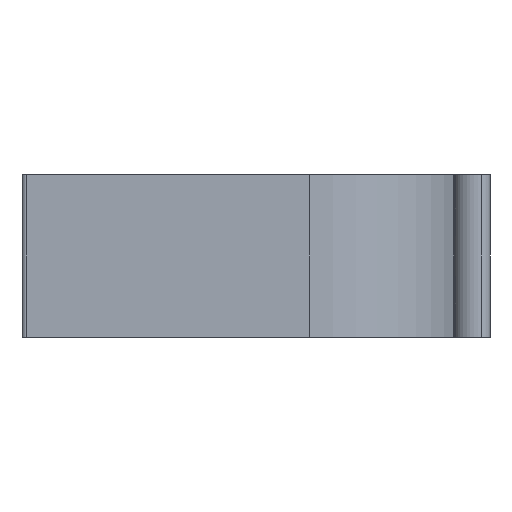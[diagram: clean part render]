
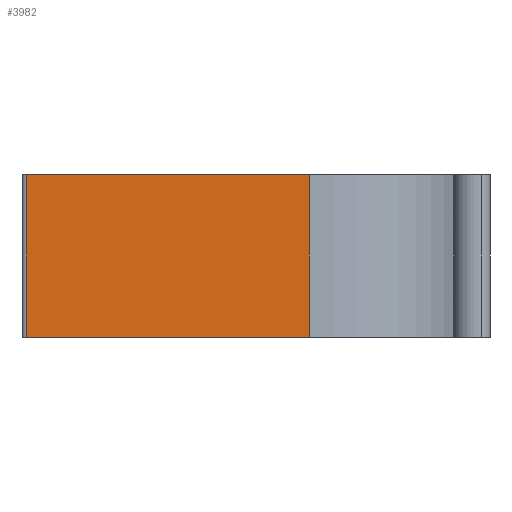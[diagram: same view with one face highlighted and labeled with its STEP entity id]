
A CAD part, front view. The second image highlights one B-rep face of the part: STEP entity #3982.
In plain terms, the highlighted planar face has unit normal (0, -1, 0).
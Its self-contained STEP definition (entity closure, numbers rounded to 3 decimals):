
#239=DIRECTION('',(-1.,0.,0.));
#240=VECTOR('',#239,68.091);
#241=CARTESIAN_POINT('',(0.,-36.779,0.));
#242=LINE('',#241,#240);
#1834=DIRECTION('',(0.,0.,1.));
#1835=VECTOR('',#1834,39.165);
#1836=CARTESIAN_POINT('',(0.,-36.779,-39.165));
#1837=LINE('',#1836,#1835);
#1841=DIRECTION('',(-1.,0.,0.));
#1842=VECTOR('',#1841,68.091);
#1843=CARTESIAN_POINT('',(0.,-36.779,-39.165));
#1844=LINE('',#1843,#1842);
#1855=DIRECTION('',(0.,0.,-1.));
#1856=VECTOR('',#1855,39.165);
#1857=CARTESIAN_POINT('',(-68.091,-36.779,0.));
#1858=LINE('',#1857,#1856);
#2780=CARTESIAN_POINT('',(0.,-36.779,0.));
#2781=VERTEX_POINT('',#2780);
#2782=CARTESIAN_POINT('',(-68.091,-36.779,0.));
#2783=VERTEX_POINT('',#2782);
#3040=CARTESIAN_POINT('',(-68.091,-36.779,-39.165));
#3041=VERTEX_POINT('',#3040);
#3042=CARTESIAN_POINT('',(0.,-36.779,-39.165));
#3043=VERTEX_POINT('',#3042);
#3970=CARTESIAN_POINT('',(0.,-36.779,-39.165));
#3971=DIRECTION('',(0.,1.,0.));
#3972=DIRECTION('',(0.,0.,1.));
#3973=AXIS2_PLACEMENT_3D('',#3970,#3971,#3972);
#3974=PLANE('',#3973);
#3975=ORIENTED_EDGE('',*,*,#3264,.F.);
#3976=ORIENTED_EDGE('',*,*,#3965,.F.);
#3977=ORIENTED_EDGE('',*,*,#3559,.T.);
#3979=ORIENTED_EDGE('',*,*,#3978,.F.);
#3980=EDGE_LOOP('',(#3975,#3976,#3977,#3979));
#3981=FACE_OUTER_BOUND('',#3980,.F.);
#3264=EDGE_CURVE('',#2781,#2783,#242,.T.);
#3559=EDGE_CURVE('',#3043,#3041,#1844,.T.);
#3965=EDGE_CURVE('',#3043,#2781,#1837,.T.);
#3978=EDGE_CURVE('',#2783,#3041,#1858,.T.);
#3982=ADVANCED_FACE('',(#3981),#3974,.F.);
